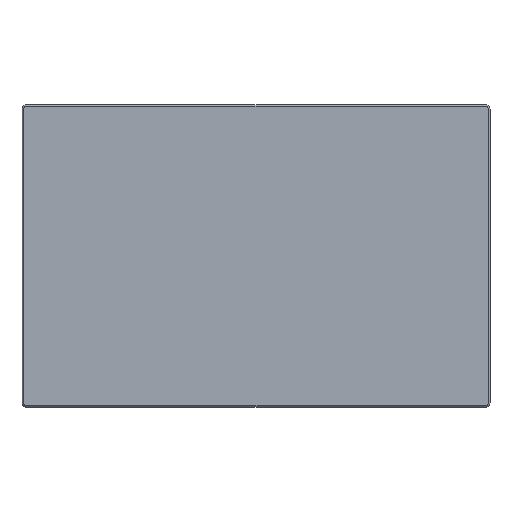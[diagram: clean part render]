
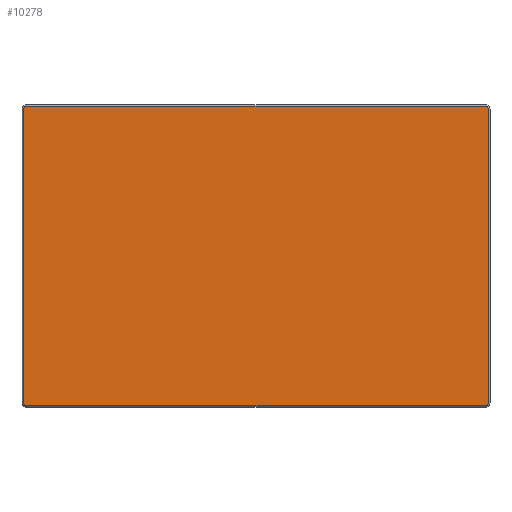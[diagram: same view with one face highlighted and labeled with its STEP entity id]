
A CAD part, top view. The second image highlights one B-rep face of the part: STEP entity #10278.
In plain terms, the highlighted planar face has unit normal (0, 0, 1).
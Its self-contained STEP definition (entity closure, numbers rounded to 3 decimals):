
#257 = CARTESIAN_POINT ( 'NONE',  ( -200., 128., 8. ) ) ;
#292 = CARTESIAN_POINT ( 'NONE',  ( -200., 130.5, 8. ) ) ;
#512 = CARTESIAN_POINT ( 'NONE',  ( -202.5, 128., 8. ) ) ;
#622 = CARTESIAN_POINT ( 'NONE',  ( 0., -130.5, 8. ) ) ;
#1206 = DIRECTION ( 'NONE',  ( -1., 0., 0. ) ) ;
#1275 = ORIENTED_EDGE ( 'NONE', *, *, #6199, .T. ) ;
#1313 = DIRECTION ( 'NONE',  ( 0., 0., 1. ) ) ;
#1428 = VECTOR ( 'NONE', #9069, 1000. ) ;
#1448 = CARTESIAN_POINT ( 'NONE',  ( -200., -128., 8. ) ) ;
#1729 = AXIS2_PLACEMENT_3D ( 'NONE', #257, #6006, #5953 ) ;
#2114 = CARTESIAN_POINT ( 'NONE',  ( -202.5, -128., 8. ) ) ;
#2671 = ORIENTED_EDGE ( 'NONE', *, *, #10733, .T. ) ;
#2705 = AXIS2_PLACEMENT_3D ( 'NONE', #7266, #16083, #8503 ) ;
#2941 = VERTEX_POINT ( 'NONE', #15973 ) ;
#3301 = VERTEX_POINT ( 'NONE', #5377 ) ;
#3656 = LINE ( 'NONE', #14875, #15873 ) ;
#4115 = CARTESIAN_POINT ( 'NONE',  ( 200., -130.5, 8. ) ) ;
#4446 = ORIENTED_EDGE ( 'NONE', *, *, #13788, .T. ) ;
#5233 = AXIS2_PLACEMENT_3D ( 'NONE', #1448, #1313, #1206 ) ;
#5265 = DIRECTION ( 'NONE',  ( -1., 0., 0. ) ) ;
#5325 = DIRECTION ( 'NONE',  ( 0., 0., 1. ) ) ;
#5377 = CARTESIAN_POINT ( 'NONE',  ( 200., 130.5, 8. ) ) ;
#5452 = CARTESIAN_POINT ( 'NONE',  ( 200., 128., 8. ) ) ;
#5591 = EDGE_CURVE ( 'NONE', #8573, #12238, #3656, .T. ) ;
#5788 = EDGE_CURVE ( 'NONE', #12238, #13857, #8722, .T. ) ;
#5953 = DIRECTION ( 'NONE',  ( -1., 0., 0. ) ) ;
#6006 = DIRECTION ( 'NONE',  ( 0., 0., 1. ) ) ;
#6017 = VECTOR ( 'NONE', #8054, 1000. ) ;
#6165 = EDGE_LOOP ( 'NONE', ( #1275, #2671, #14826, #8354, #7208, #4446, #6554, #10869 ) ) ;
#6199 = EDGE_CURVE ( 'NONE', #3301, #9455, #13443, .T. ) ;
#6531 = AXIS2_PLACEMENT_3D ( 'NONE', #15163, #15197, #15214 ) ;
#6554 = ORIENTED_EDGE ( 'NONE', *, *, #9627, .T. ) ;
#6884 = EDGE_CURVE ( 'NONE', #12295, #3301, #11076, .T. ) ;
#7208 = ORIENTED_EDGE ( 'NONE', *, *, #15813, .T. ) ;
#7266 = CARTESIAN_POINT ( 'NONE',  ( 200., -128., 8. ) ) ;
#7416 = CARTESIAN_POINT ( 'NONE',  ( -200., -130.5, 8. ) ) ;
#8054 = DIRECTION ( 'NONE',  ( 1., 0., 0. ) ) ;
#8327 = CARTESIAN_POINT ( 'NONE',  ( 0., 130.5, 8. ) ) ;
#8354 = ORIENTED_EDGE ( 'NONE', *, *, #5788, .T. ) ;
#8418 = CARTESIAN_POINT ( 'NONE',  ( 202.5, 128., 8. ) ) ;
#8503 = DIRECTION ( 'NONE',  ( -1., 0., 0. ) ) ;
#8572 = CIRCLE ( 'NONE', #1729, 2.5 ) ;
#8573 = VERTEX_POINT ( 'NONE', #512 ) ;
#8722 = CIRCLE ( 'NONE', #5233, 2.5 ) ;
#9069 = DIRECTION ( 'NONE',  ( 0., 1., 0. ) ) ;
#9455 = VERTEX_POINT ( 'NONE', #292 ) ;
#9460 = CARTESIAN_POINT ( 'NONE',  ( 202.5, 0., 8. ) ) ;
#9627 = EDGE_CURVE ( 'NONE', #2941, #12295, #14352, .T. ) ;
#10278 = ADVANCED_FACE ( 'NONE', ( #11544 ), #15195, .T. ) ;
#10733 = EDGE_CURVE ( 'NONE', #9455, #8573, #8572, .T. ) ;
#10869 = ORIENTED_EDGE ( 'NONE', *, *, #6884, .T. ) ;
#11076 = CIRCLE ( 'NONE', #14973, 2.5 ) ;
#11160 = DIRECTION ( 'NONE',  ( -1., 0., 0. ) ) ;
#11544 = FACE_OUTER_BOUND ( 'NONE', #6165, .T. ) ;
#12238 = VERTEX_POINT ( 'NONE', #2114 ) ;
#12295 = VERTEX_POINT ( 'NONE', #8418 ) ;
#12865 = VERTEX_POINT ( 'NONE', #4115 ) ;
#13213 = CIRCLE ( 'NONE', #2705, 2.5 ) ;
#13443 = LINE ( 'NONE', #8327, #16092 ) ;
#13788 = EDGE_CURVE ( 'NONE', #12865, #2941, #13213, .T. ) ;
#13857 = VERTEX_POINT ( 'NONE', #7416 ) ;
#14341 = DIRECTION ( 'NONE',  ( 0., -1., 0. ) ) ;
#14352 = LINE ( 'NONE', #9460, #1428 ) ;
#14826 = ORIENTED_EDGE ( 'NONE', *, *, #5591, .T. ) ;
#14875 = CARTESIAN_POINT ( 'NONE',  ( -202.5, 0., 8. ) ) ;
#14973 = AXIS2_PLACEMENT_3D ( 'NONE', #5452, #5325, #5265 ) ;
#15163 = CARTESIAN_POINT ( 'NONE',  ( 0., 0., 8. ) ) ;
#15195 = PLANE ( 'NONE',  #6531 ) ;
#15197 = DIRECTION ( 'NONE',  ( 0., 0., 1. ) ) ;
#15214 = DIRECTION ( 'NONE',  ( 1., 0., 0. ) ) ;
#15676 = LINE ( 'NONE', #622, #6017 ) ;
#15813 = EDGE_CURVE ( 'NONE', #13857, #12865, #15676, .T. ) ;
#15873 = VECTOR ( 'NONE', #14341, 1000. ) ;
#15973 = CARTESIAN_POINT ( 'NONE',  ( 202.5, -128., 8. ) ) ;
#16083 = DIRECTION ( 'NONE',  ( 0., 0., 1. ) ) ;
#16092 = VECTOR ( 'NONE', #11160, 1000. ) ;
